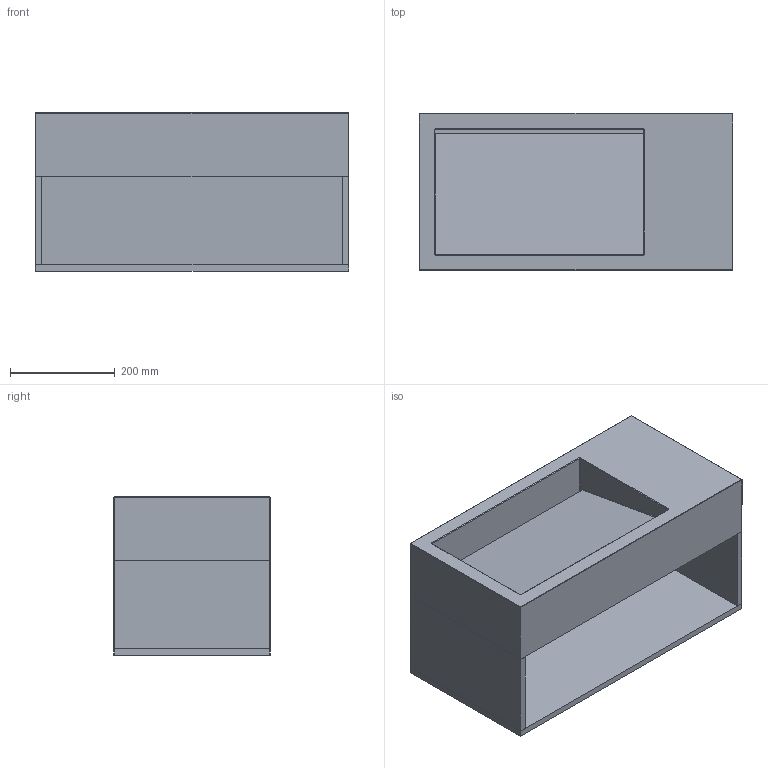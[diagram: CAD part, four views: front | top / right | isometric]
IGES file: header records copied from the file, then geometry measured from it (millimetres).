
Global section: file name: \\Archi-NAS\Comune\X GIOVANNI\SCHEDE PRODOTTO\LAVABI\SOSPESI\CUBATECNO\3D\MOMA DESIGN_LAVABI SOSPESI_CUBATECNO 3.igs; native system: Rhinoceros ( Jan 17 2018 ); preprocessor: Trout Lake IGES 012 Jan 17 2018; date: 230629.141709; units: millimetre
Bounding box: 598.87 x 299.43 x 302 mm (x, y, z)
Surface area: 1488501.8 mm2 (no closed solid volume)
Topology: 0 solids, 0 shells, 77 faces, 393 edges, 389 vertices
Faces by surface type: bspline 77
